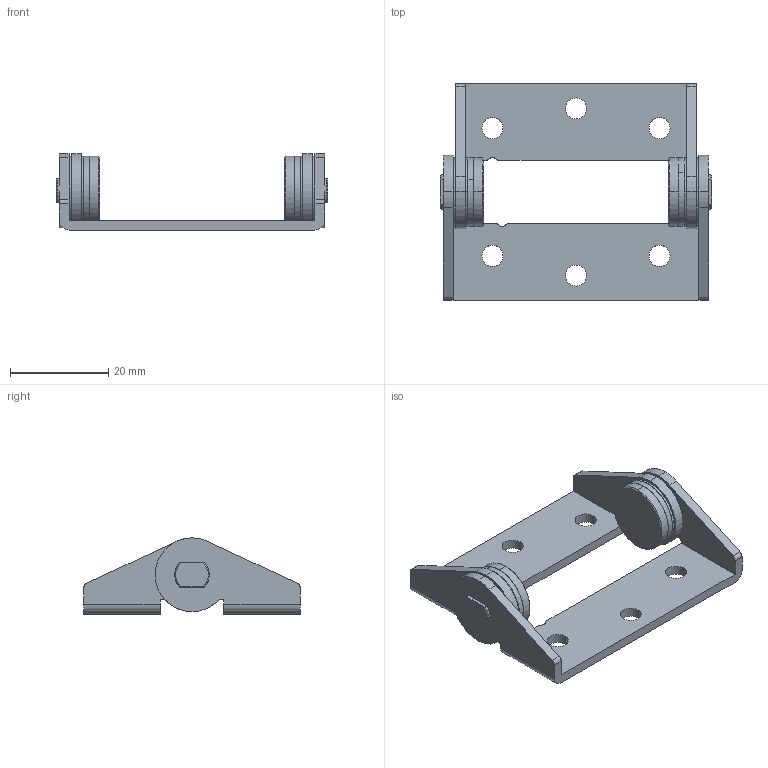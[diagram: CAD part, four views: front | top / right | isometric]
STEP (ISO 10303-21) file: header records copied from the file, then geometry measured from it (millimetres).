
FILE_DESCRIPTION (( 'STEP AP203' ), '1' );
FILE_NAME ('HG-ITS_0.step', '2012-05-14T02:20:24', ( ' ' ), ( '' ), 'SwSTEP 2.0', 'SolidWorks 2011', '' );
FILE_SCHEMA (( 'CONFIG_CONTROL_DESIGN' ));
Length unit declared in the file: millimetre
Products named in the file (6): HG-ITS_0; SC170-01084_HG-ITS_シャフト; SC170-01088_HG-ITS_波ワッシャ; SC170-01085_HG-ITS_フリクションプレート; SC170-01086_HG-ITS僽儔働僢僩; SC170-01087_HG-ITS_ベース
Assembly tree (10 placements, depth 2):
  HG-ITS_0
    SC170-01084_HG-ITS_シャフト  x2
    SC170-01088_HG-ITS_波ワッシャ  x2
    SC170-01085_HG-ITS_フリクションプレート  x4
    SC170-01086_HG-ITS僽儔働僢僩
    SC170-01087_HG-ITS_ベース
Bounding box: 55.2 x 44 x 15.5 mm (x, y, z)
Volume: 6554.6 mm3; surface area: 8991.3 mm2
Topology: 10 solids, 10 shells, 166 faces, 424 edges, 280 vertices
Faces by surface type: cylinder 82, plane 72, cone 12
Entity records: 4542 total; most frequent: DIRECTION 708, CARTESIAN_POINT 660, ORIENTED_EDGE 624, EDGE_CURVE 312, AXIS2_PLACEMENT_3D 270, VERTEX_POINT 206, VECTOR 168, LINE 168
